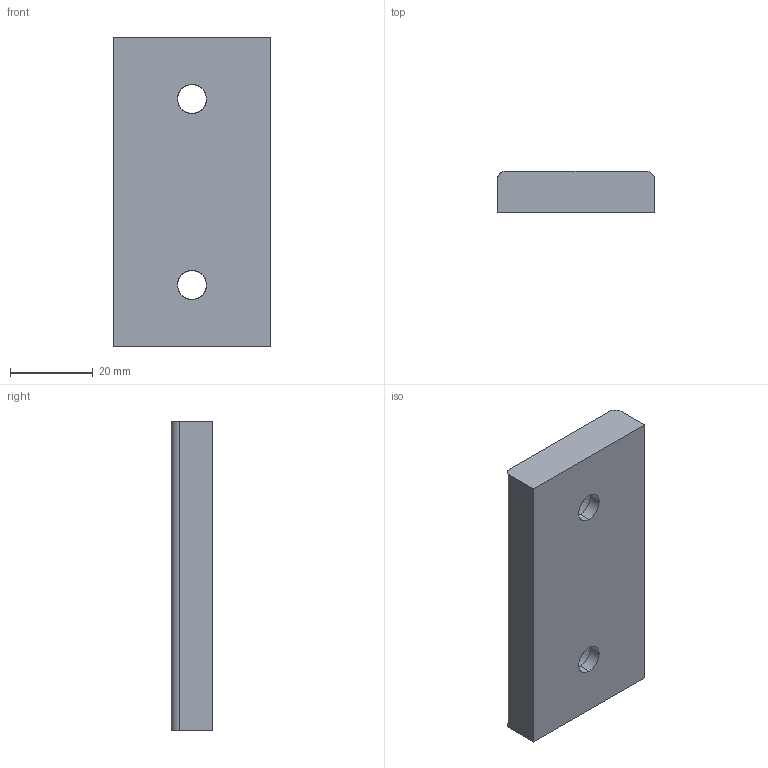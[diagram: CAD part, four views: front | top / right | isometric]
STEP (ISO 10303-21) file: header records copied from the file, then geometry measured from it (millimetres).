
FILE_DESCRIPTION(('CATIA V5 STEP Exchange'),'2;1');
FILE_NAME('C:\Users\Utente\Desktop\3D files A606\A606-038-075.stp','2020-04-13T18:07:02+00:00',('none'),('none'),'CATIA Version 5 Release 20 GA (IN-10)','CATIA V5 STEP AP203','none');
FILE_SCHEMA(('CONFIG_CONTROL_DESIGN'));
Length unit declared in the file: millimetre
Products named in the file (1): Noname
Bounding box: 38 x 10 x 75 mm (x, y, z)
Surface area: 8289.6 mm2 (no closed solid volume)
Topology: 0 solids, 14 shells, 18 faces, 76 edges, 68 vertices
Faces by surface type: cylinder 10, extrusion 8
Entity records: 1044 total; most frequent: CARTESIAN_POINT 415, DIRECTION 84, ORIENTED_EDGE 84, EDGE_CURVE 76, VERTEX_POINT 68, VECTOR 44, LINE 36, AXIS2_PLACEMENT_3D 31
